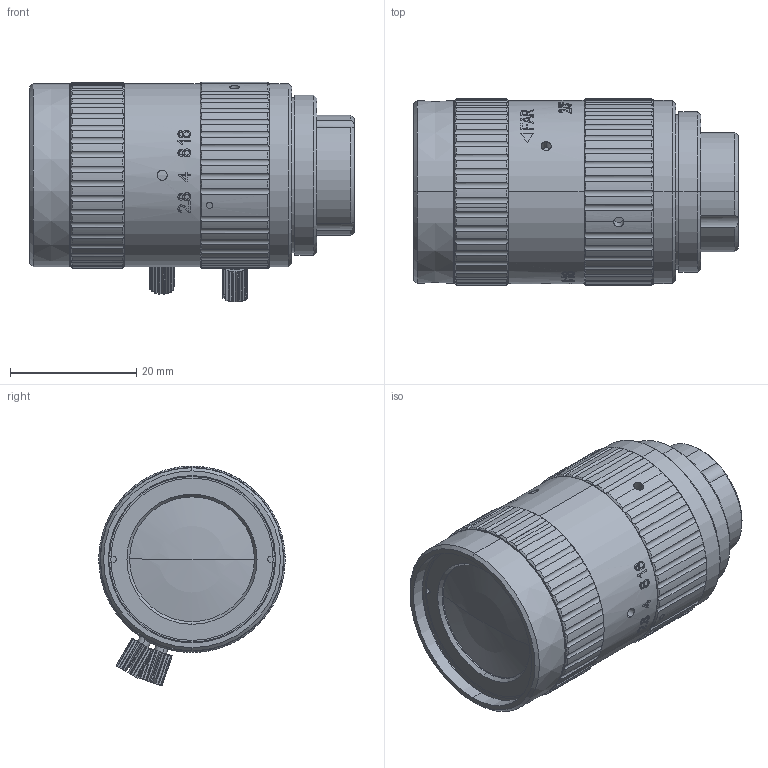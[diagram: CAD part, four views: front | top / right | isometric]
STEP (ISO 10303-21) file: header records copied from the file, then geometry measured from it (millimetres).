
FILE_DESCRIPTION (( 'STEP AP203' ), '1' );
FILE_NAME ('12mm蚾饜极.STEP', '2022-08-16T03:20:08', ( '' ), ( '' ), 'SwSTEP 2.0', 'SolidWorks 2020', '' );
FILE_SCHEMA (( 'CONFIG_CONTROL_DESIGN' ));
Length unit declared in the file: millimetre
Products named in the file (21): 12mm嫖擊遠; 12mm蟀諉釱; 12mmǰѹȦ; 蹟隊; 絳杶; 12mmヶ噩芠; 12mm嫖擊雄遠; 珔え蚾饜极; 12mm后压圈; __8.2____.STEP; 12mm蚾饜极; 2瘍脣种; 嫖擊絳隊; 12mm擄蝴遠; G9; 12mm翋噩芠; 12mm綴噩芠; 珔え蚾饜极.STEP; G1; ____.STEP; 絳隊
Assembly tree (26 placements, depth 4):
  12mm蚾饜极
    12mmヶ噩芠
    珔え蚾饜极
      珔え蚾饜极.STEP
        __8.2____.STEP
        ____.STEP  x2
    12mm嫖擊雄遠
    12mm嫖擊遠
    12mm綴噩芠  x2
    12mm后压圈  x2
    12mm擄蝴遠
    12mm蟀諉釱
    12mmǰѹȦ
    12mm翋噩芠
    嫖擊絳隊
    絳隊
    絳杶
    蹟隊  x3
    G1
    G9
    2瘍脣种  x2
Bounding box: 51.35 x 29.5 x 34.8 mm (x, y, z)
Volume: 20731.4 mm3; surface area: 30741.2 mm2
Topology: 25 solids, 26 shells, 1731 faces, 4409 edges, 2832 vertices
Faces by surface type: cylinder 751, plane 439, cone 308, bspline 221, sphere 12
Entity records: 81233 total; most frequent: CARTESIAN_POINT 44835, ORIENTED_EDGE 7730, DIRECTION 6323, EDGE_CURVE 3865, AXIS2_PLACEMENT_3D 2544, VERTEX_POINT 2480, EDGE_LOOP 1675, ADVANCED_FACE 1521
